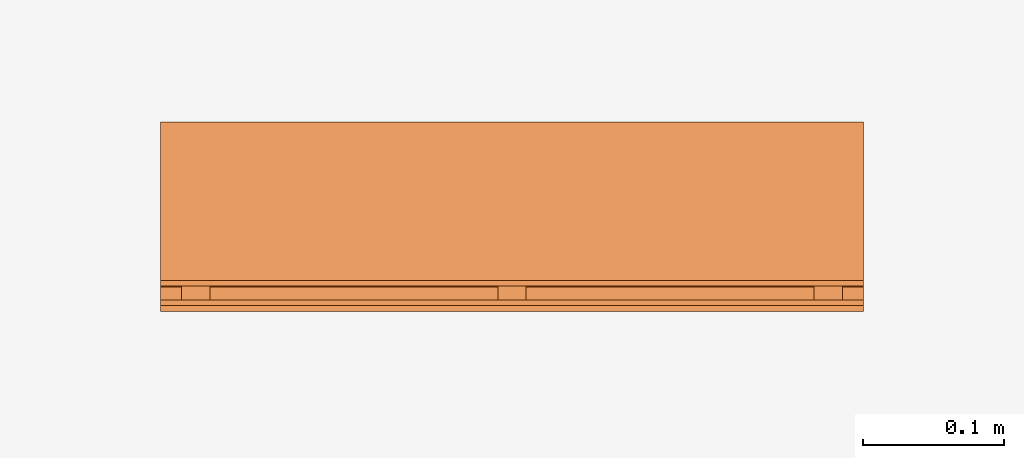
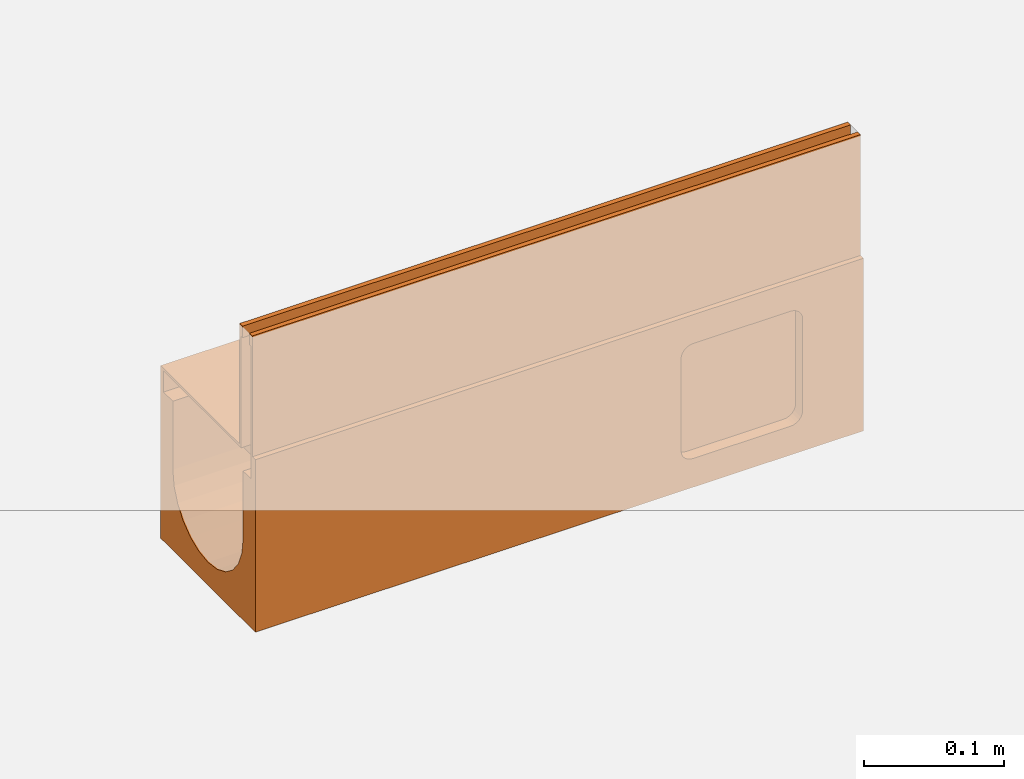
# One storey, part 2 of 2: 1 proxy.
"""IFC2X3 building model written with IfcOpenShell, lengths in millimetres."""

from ifc_helpers import new_model, entity, si_unit, converted_unit, direction, frame, origin, place, context, subcontext, project, spatial, faceted_brep, source, transform, mapped, material, material_list, element, save


model = new_model("IFC2X3")

# Units and contexts
model_context = context("Model", 3, precision=1e-06, world=origin(), true_north=direction((2.0, 6.12303176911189e-17, 1.0)))
context_of_model = context(None, 3, precision=1e-06, world=origin(), true_north=direction((2.0, 6.12303176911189e-17, 1.0)))
body_context = subcontext(model_context, "Body", "Model", "MODEL_VIEW")
ifc_project = project(units=[si_unit("LENGTHUNIT", "METRE", prefix="MILLI"), si_unit("AREAUNIT", "SQUARE_METRE", prefix="MILLI"), si_unit("VOLUMEUNIT", "CUBIC_METRE", prefix="MILLI"), converted_unit("PLANEANGLEUNIT", "DEGREE", entity("IfcRatioMeasure", 0.0174532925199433), si_unit("PLANEANGLEUNIT", "RADIAN"), dimensions=[0, 0, 0, 0, 0, 0, 0]), si_unit("TIMEUNIT", "SECOND")], contexts=[model_context, context_of_model])

# Site, building, storey
site_placement = place(None, origin())
site = spatial("IfcSite", under=ifc_project, at=site_placement, Name="Default", CompositionType="ELEMENT")
building_placement = place(site_placement, origin())
building = spatial("IfcBuilding", under=site, at=building_placement, CompositionType="ELEMENT")
storey_placement = place(building_placement, origin())
storey = spatial("IfcBuildingStorey", under=building, at=storey_placement, Name="Level 1", CompositionType="ELEMENT", Elevation=0.0)

# Proxy
ifc_material_1 = material(Name="Steel, Galvanized")
ifc_material_2 = material(Name="Vienite® Synthetic Resin Concrete")
ifc_material_list = material_list([ifc_material_1, ifc_material_2])
shared_shape = source(origin(), body_context, "Body", "Brep", [
    faceted_brep([(63.249999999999, 15.0, -107.0), (63.249999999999, 17.0, -109.0), (63.249999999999, 33.0, -109.0), (63.249999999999, 35.0, -107.0), (63.249999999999, 17.0, -123.499999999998), (63.249999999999, 15.0, -125.499999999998), (63.249999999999, 33.0, -123.499999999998), (63.249999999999, 35.0, -125.499999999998), (-61.250000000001, 15.0, -125.499999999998), (-61.250000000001, 17.0, -123.499999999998), (-61.250000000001, 33.0, -123.499999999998), (-61.250000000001, 35.0, -125.499999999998), (-61.250000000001, 17.0, -109.0), (-61.250000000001, 15.0, -107.0), (-61.250000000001, 33.0, -109.0), (-61.250000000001, 35.0, -107.0)], [[[0, 1, 2, 3]], [[4, 1, 0, 5]], [[3, 2, 6, 7]], [[6, 4, 5, 7]], [[8, 9, 10, 11]], [[12, 9, 8, 13]], [[11, 10, 14, 15]], [[14, 12, 13, 15]], [[5, 0, 13, 8]], [[7, 5, 8, 11]], [[3, 7, 11, 15]], [[0, 3, 15, 13]], [[1, 4, 9, 12]], [[14, 2, 1, 12]], [[6, 2, 14, 10]], [[9, 4, 6, 10]]]),
    faceted_brep([(-59.2500000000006, 500.0, 0.0), (-59.2500000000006, 500.0, -10.0), (-61.2500000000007, 500.0, -10.0), (-63.2500000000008, 500.0, 0.0), (-63.2500000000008, 500.0, -105.0), (-61.2500000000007, 500.0, -125.499999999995), (-63.2500000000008, 500.0, -125.499999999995), (-61.2500000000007, 0.0, -10.0), (-63.2500000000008, 0.0, 0.0), (-63.2500000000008, 0.0, -125.499999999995), (-61.2500000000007, 0.0, -125.499999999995), (-59.2500000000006, 0.0, 0.0), (-59.2500000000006, 0.0, -10.0)], [[[0, 1, 2, 3]], [[4, 2, 5, 6]], [[3, 2, 4]], [[7, 8, 9, 10]], [[11, 8, 7, 12]], [[5, 10, 9, 6]], [[2, 7, 10, 5]], [[1, 12, 7, 2]], [[0, 11, 12, 1]], [[3, 8, 11, 0]], [[4, 9, 8, 3]], [[4, 6, 9]]]),
    faceted_brep([(-47.2500000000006, 0.0, -10.0), (-47.2500000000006, 0.0, -107.0), (-45.2500000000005, 0.0, -105.0), (-45.2500000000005, 0.0, 0.0), (-49.2500000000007, 0.0, 0.0), (-49.2500000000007, 0.0, -10.0), (63.2499999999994, 0.0, -107.0), (63.2499999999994, 0.0, -105.0), (-47.2500000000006, 500.0, -10.0), (-49.2500000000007, 500.0, -10.0), (-47.2500000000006, 500.0, -107.0), (63.2499999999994, 500.0, -107.0), (63.2499999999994, 500.0, -105.0), (-45.2500000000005, 500.0, -105.0), (-45.2500000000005, 500.0, 0.0), (-49.2500000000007, 500.0, 0.0)], [[[0, 1, 2, 3]], [[4, 5, 0, 3]], [[6, 7, 2, 1]], [[8, 0, 5, 9]], [[10, 1, 0, 8]], [[11, 6, 1, 10]], [[12, 7, 6, 11]], [[13, 2, 7, 12]], [[14, 3, 2, 13]], [[15, 4, 3, 14]], [[9, 5, 4, 15]], [[8, 14, 13, 10]], [[13, 12, 11, 10]], [[8, 9, 15, 14]]]),
    faceted_brep([(63.2499999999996, 465.0, -107.0), (63.2499999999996, 467.0, -109.0), (63.2499999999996, 483.0, -109.0), (63.2499999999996, 485.0, -107.0), (63.2499999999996, 467.0, -123.499999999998), (63.2499999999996, 465.0, -125.499999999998), (63.2499999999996, 483.0, -123.499999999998), (63.2499999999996, 485.0, -125.499999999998), (-61.2500000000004, 465.0, -125.499999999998), (-61.2500000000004, 467.0, -123.499999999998), (-61.2500000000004, 483.0, -123.499999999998), (-61.2500000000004, 485.0, -125.499999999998), (-61.2500000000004, 467.0, -109.0), (-61.2500000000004, 465.0, -107.0), (-61.2500000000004, 483.0, -109.0), (-61.2500000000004, 485.0, -107.0)], [[[0, 1, 2, 3]], [[4, 1, 0, 5]], [[3, 2, 6, 7]], [[6, 4, 5, 7]], [[8, 9, 10, 11]], [[12, 9, 8, 13]], [[11, 10, 14, 15]], [[14, 12, 13, 15]], [[5, 0, 13, 8]], [[7, 5, 8, 11]], [[3, 7, 11, 15]], [[0, 3, 15, 13]], [[1, 4, 9, 12]], [[2, 1, 12, 14]], [[6, 2, 14, 10]], [[4, 6, 10, 9]]]),
    faceted_brep([(63.2499999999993, 240.0, -107.0), (63.2499999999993, 242.0, -109.0), (63.2499999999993, 258.0, -109.0), (63.2499999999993, 260.0, -107.0), (63.2499999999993, 242.0, -123.499999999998), (63.2499999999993, 240.0, -125.499999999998), (63.2499999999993, 258.0, -123.499999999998), (63.2499999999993, 260.0, -125.499999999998), (-61.2500000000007, 240.0, -125.499999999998), (-61.2500000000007, 242.0, -123.499999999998), (-61.2500000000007, 258.0, -123.499999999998), (-61.2500000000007, 260.0, -125.499999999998), (-61.2500000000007, 242.0, -109.0), (-61.2500000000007, 240.0, -107.0), (-61.2500000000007, 258.0, -109.0), (-61.2500000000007, 260.0, -107.0)], [[[0, 1, 2, 3]], [[4, 1, 0, 5]], [[3, 2, 6, 7]], [[6, 4, 5, 7]], [[8, 9, 10, 11]], [[12, 9, 8, 13]], [[11, 10, 14, 15]], [[14, 12, 13, 15]], [[5, 0, 13, 8]], [[7, 5, 8, 11]], [[3, 7, 11, 15]], [[0, 3, 15, 13]], [[1, 4, 9, 12]], [[2, 1, 12, 14]], [[6, 2, 14, 10]], [[4, 6, 10, 9]]]),
    faceted_brep([(63.2499999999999, 500.0, -125.500000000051), (63.2499999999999, 500.0, -105.0), (67.4999999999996, 500.0, -105.0), (67.4999999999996, 500.0, -255.0), (50.0, 500.0, -185.0), (50.0, 500.0, -125.500000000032), (48.2962913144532, 500.0, -197.940952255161), (-67.5000000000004, 500.0, -105.0), (-63.2500000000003, 500.0, -105.0), (-63.2500000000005, 500.0, -125.500000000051), (-67.5000000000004, 500.0, -255.0), (-50.0, 500.0, -125.500000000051), (-50.0, 500.0, -185.0), (35.3553390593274, 500.0, -220.355339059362), (43.3012701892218, 500.0, -210.0), (25.0, 500.0, -228.301270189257), (0.0, 500.0, -235.0), (12.9409522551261, 500.0, -233.296291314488), (-43.3012701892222, 500.0, -210.0), (-35.3553390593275, 500.0, -220.355339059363), (-48.2962913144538, 500.0, -197.940952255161), (-25.0, 500.0, -228.301270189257), (-12.940952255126, 500.0, -233.296291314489), (67.4999999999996, 0.0, -255.0), (12.9409522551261, 0.0, -233.296291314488), (0.0, 0.0, -235.0), (25.0, 0.0, -228.301270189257), (35.3553390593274, 0.0, -220.355339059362), (43.3012701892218, 0.0, -210.0), (48.2962913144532, 0.0, -197.940952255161), (-12.940952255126, 0.0, -233.296291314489), (-67.5000000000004, 0.0, -255.0), (-25.0, 0.0, -228.301270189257), (-35.3553390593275, 0.0, -220.355339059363), (-43.3012701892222, 0.0, -210.0), (-48.2962913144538, 0.0, -197.940952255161), (50.0, 0.0, -185.0), (63.2499999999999, 0.0, -125.500000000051), (50.0, 0.0, -125.500000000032), (67.4999999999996, 0.0, -105.0), (63.2499999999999, 0.0, -105.0), (-50.0, 0.0, -185.0), (-50.0, 0.0, -125.500000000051), (-63.2500000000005, 0.0, -125.500000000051), (-63.2500000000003, 0.0, -105.0), (-67.5000000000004, 0.0, -105.0), (-67.5000000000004, 51.3397459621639, -135.0), (-67.5000000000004, 50.3407417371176, -137.411809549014), (-67.5000000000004, 52.9289321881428, -132.928932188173), (-67.5000000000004, 50.0, -140.0), (-67.5000000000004, 50.0, -220.0), (-67.5000000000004, 60.0, -130.0), (-67.5000000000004, 57.4118095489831, -130.340741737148), (-67.5000000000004, 55.0, -131.339745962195), (-67.5000000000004, 140.0, -130.0), (-67.5000000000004, 50.3407417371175, -222.588190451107), (-67.5000000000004, 51.3397459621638, -225.0), (-67.5000000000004, 52.9289321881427, -227.071067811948), (-67.5000000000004, 55.0, -228.660254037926), (-67.5000000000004, 57.4118095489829, -229.659258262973), (-67.5000000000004, 60.0, -230.0), (-67.5000000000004, 140.0, -230.0), (-67.5000000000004, 142.588190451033, -130.340741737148), (-67.5000000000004, 147.071067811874, -132.928932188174), (-67.5000000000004, 145.0, -131.339745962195), (-67.5000000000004, 148.660254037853, -135.0), (-67.5000000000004, 149.659258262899, -137.411809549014), (-67.5000000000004, 150.0, -140.0), (-67.5000000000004, 145.0, -228.660254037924), (-67.5000000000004, 147.071067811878, -227.071067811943), (-67.5000000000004, 142.588190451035, -229.659258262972), (-67.5000000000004, 149.659258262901, -222.588190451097), (-67.5000000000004, 150.0, -220.0), (-67.5000000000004, 148.660254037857, -225.0), (-14.2350474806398, 46.8740795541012, -255.0), (0.0, 45.0, -255.0), (-27.5000000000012, 52.3686027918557, -255.0), (-53.1259204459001, 85.764952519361, -255.0), (-47.6313972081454, 72.4999999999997, -255.0), (-38.8908729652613, 61.1091270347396, -255.0), (-55.0, 100.0, -255.0), (14.2350474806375, 46.8740795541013, -255.0), (27.4999999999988, 52.368602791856, -255.0), (38.8908729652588, 61.1091270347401, -255.0), (47.6313972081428, 72.5000000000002, -255.0), (53.1259204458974, 85.7649525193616, -255.0), (55.0, 100.0, -255.0), (-53.1259204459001, 114.235047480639, -255.0), (-47.6313972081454, 127.5, -255.0), (-38.8908729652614, 138.89087296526, -255.0), (-27.5000000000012, 147.631397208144, -255.0), (-14.2350474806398, 153.125920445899, -255.0), (0.0, 155.0, -255.0), (47.6313972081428, 127.5, -255.0), (38.8908729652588, 138.89087296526, -255.0), (53.1259204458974, 114.235047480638, -255.0), (14.2350474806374, 153.125920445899, -255.0), (27.4999999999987, 147.631397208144, -255.0), (67.4999999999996, 51.3397459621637, -225.0), (67.4999999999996, 50.3407417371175, -222.588190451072), (67.4999999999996, 52.9289321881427, -227.071067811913), (67.4999999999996, 50.0, -220.0), (67.4999999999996, 50.0, -140.0), (67.4999999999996, 60.0, -230.0), (67.4999999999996, 57.4118095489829, -229.659258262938), (67.4999999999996, 55.0, -228.660254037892), (67.4999999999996, 140.0, -230.0), (67.4999999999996, 50.3407417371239, -137.411809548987), (67.4999999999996, 51.3397459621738, -135.0), (67.4999999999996, 52.9289321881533, -132.92893218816), (67.4999999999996, 55.0, -131.339745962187), (67.4999999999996, 57.4118095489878, -130.340741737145), (67.4999999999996, 60.0, -130.0), (67.4999999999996, 140.0, -130.0), (67.4999999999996, 142.588190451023, -229.659258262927), (67.4999999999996, 147.071067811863, -227.071067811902), (67.4999999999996, 145.0, -228.660254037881), (67.4999999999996, 148.660254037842, -225.0), (67.4999999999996, 149.659258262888, -222.588190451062), (67.4999999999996, 150.0, -220.0), (67.4999999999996, 145.0, -131.339745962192), (67.4999999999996, 147.071067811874, -132.928932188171), (67.4999999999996, 142.588190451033, -130.340741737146), (67.4999999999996, 149.659258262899, -137.411809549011), (67.4999999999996, 150.0, -140.0), (67.4999999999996, 148.660254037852, -135.0), (57.4999999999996, 149.659258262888, -222.588190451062), (57.4999999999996, 150.0, -220.0), (57.4999999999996, 140.0, -230.0), (57.4999999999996, 148.660254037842, -225.0), (57.4999999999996, 142.588190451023, -229.659258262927), (57.4999999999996, 145.0, -228.660254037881), (57.4999999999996, 147.071067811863, -227.071067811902), (57.4999999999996, 150.0, -140.0), (57.4999999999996, 149.659258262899, -137.411809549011), (57.4999999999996, 148.660254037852, -135.0), (57.4999999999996, 147.071067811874, -132.928932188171), (57.4999999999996, 145.0, -131.339745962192), (57.4999999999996, 140.0, -130.0), (57.4999999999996, 142.588190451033, -130.340741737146), (57.4999999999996, 60.0, -130.0), (57.4999999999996, 50.0, -220.0), (57.4999999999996, 55.0, -228.660254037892), (57.4999999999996, 57.4118095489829, -229.659258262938), (57.4999999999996, 60.0, -230.0), (57.4999999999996, 52.9289321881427, -227.071067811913), (57.4999999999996, 50.3407417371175, -222.588190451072), (57.4999999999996, 51.3397459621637, -225.0), (57.4999999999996, 57.411809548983, -130.340741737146), (57.4999999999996, 55.0, -131.339745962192), (57.4999999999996, 50.3407417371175, -137.411809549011), (57.4999999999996, 52.9289321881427, -132.928932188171), (57.4999999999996, 51.3397459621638, -135.0), (57.4999999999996, 50.0, -140.0), (-57.5000000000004, 55.0, -131.339745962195), (-57.5000000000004, 57.4118095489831, -130.340741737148), (-57.5000000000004, 60.0, -130.0), (-57.5000000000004, 50.0, -140.0), (-57.5000000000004, 50.3407417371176, -137.411809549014), (-57.5000000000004, 51.3397459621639, -135.0), (-57.5000000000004, 52.9289321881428, -132.928932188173), (-57.5000000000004, 150.0, -140.0), (-57.5000000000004, 140.0, -130.0), (-57.5000000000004, 148.660254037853, -135.0), (-57.5000000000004, 142.588190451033, -130.340741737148), (-57.5000000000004, 145.0, -131.339745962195), (-57.5000000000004, 147.071067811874, -132.928932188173), (-57.5000000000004, 149.659258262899, -137.411809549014), (-57.5000000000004, 150.0, -220.0), (-57.5000000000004, 50.0, -220.0), (-57.5000000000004, 51.3397459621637, -225.0), (-57.5000000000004, 50.3407417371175, -222.588190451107), (-57.5000000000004, 60.0, -230.0), (-57.5000000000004, 57.4118095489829, -229.659258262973), (-57.5000000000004, 55.0, -228.660254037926), (-57.5000000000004, 52.9289321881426, -227.071067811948), (-57.5000000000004, 140.0, -230.0), (-57.5000000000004, 149.659258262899, -222.588190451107), (-57.5000000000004, 148.660254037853, -225.0), (-57.5000000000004, 142.588190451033, -229.659258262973), (-57.5000000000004, 147.071067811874, -227.071067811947), (-57.5000000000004, 145.0, -228.660254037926), (-27.5000000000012, 147.631397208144, -245.0), (-14.2350474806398, 153.125920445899, -245.0), (0.0, 155.0, -245.0), (14.2350474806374, 153.125920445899, -245.0), (-38.8908729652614, 138.89087296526, -245.0), (-47.6313972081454, 127.5, -245.0), (-55.0, 100.0, -245.0), (-53.1259204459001, 114.235047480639, -245.0), (47.6313972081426, 72.4999999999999, -245.0), (27.4999999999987, 147.631397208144, -245.0), (53.1259204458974, 114.235047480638, -245.0), (55.0, 100.0, -245.0), (47.6313972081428, 127.5, -245.0), (38.8908729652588, 138.89087296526, -245.0), (-47.6313972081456, 72.5, -245.0), (-27.5000000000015, 52.3686027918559, -245.0), (-38.8908729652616, 61.1091270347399, -245.0), (0.0, 45.0, -245.0), (-14.2350474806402, 46.8740795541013, -245.0), (38.8908729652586, 61.1091270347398, -245.0), (53.1259204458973, 85.7649525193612, -245.0), (27.4999999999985, 52.3686027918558, -245.0), (14.2350474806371, 46.8740795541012, -245.0), (-53.1259204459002, 85.7649525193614, -245.0)], [[[0, 1, 2, 3]], [[4, 5, 0, 3]], [[6, 4, 3]], [[7, 8, 9, 10]], [[9, 11, 12, 10]], [[13, 14, 3]], [[15, 13, 3]], [[16, 17, 3, 10]], [[3, 17, 15]], [[14, 6, 3]], [[18, 19, 10]], [[20, 18, 10]], [[21, 22, 10]], [[10, 22, 16]], [[21, 10, 19]], [[20, 10, 12]], [[23, 24, 25]], [[24, 23, 26]], [[27, 26, 23]], [[28, 27, 23]], [[23, 29, 28]], [[25, 30, 31, 23]], [[31, 30, 32]], [[33, 34, 31]], [[32, 33, 31]], [[31, 34, 35]], [[36, 29, 23, 37]], [[38, 36, 37]], [[39, 40, 37, 23]], [[41, 42, 43, 31]], [[43, 44, 45, 31]], [[31, 35, 41]], [[8, 44, 43, 9]], [[45, 44, 8, 7]], [[45, 46, 47]], [[46, 45, 48]], [[47, 49, 45]], [[45, 49, 50]], [[51, 52, 45]], [[53, 48, 45]], [[52, 53, 45]], [[54, 51, 45, 7]], [[50, 55, 31, 45]], [[31, 56, 57]], [[56, 31, 55]], [[57, 58, 31]], [[59, 60, 31]], [[58, 59, 31]], [[31, 60, 61]], [[62, 54, 7]], [[63, 64, 7]], [[62, 7, 64]], [[65, 7, 66]], [[7, 65, 63]], [[67, 66, 7, 10]], [[68, 69, 10]], [[61, 70, 10, 31]], [[68, 10, 70]], [[71, 72, 10]], [[73, 10, 69]], [[10, 73, 71]], [[72, 67, 10]], [[31, 74, 75, 23]], [[74, 31, 76]], [[77, 78, 31]], [[79, 76, 31]], [[78, 79, 31]], [[31, 80, 77]], [[23, 81, 82]], [[81, 23, 75]], [[23, 82, 83]], [[83, 84, 23]], [[85, 86, 23]], [[84, 85, 23]], [[23, 86, 3]], [[10, 87, 80, 31]], [[88, 87, 10]], [[89, 10, 90]], [[10, 89, 88]], [[91, 90, 10]], [[92, 91, 10, 3]], [[93, 94, 3]], [[95, 93, 3]], [[96, 92, 3]], [[97, 3, 94]], [[3, 97, 96]], [[95, 3, 86]], [[23, 98, 99]], [[98, 23, 100]], [[99, 101, 23]], [[23, 101, 102]], [[103, 104, 23]], [[105, 100, 23]], [[104, 105, 23]], [[106, 103, 23, 3]], [[102, 107, 39, 23]], [[39, 108, 109]], [[108, 39, 107]], [[109, 110, 39]], [[111, 112, 39]], [[110, 111, 39]], [[39, 112, 113]], [[114, 106, 3]], [[115, 116, 3]], [[114, 3, 116]], [[117, 3, 118]], [[3, 117, 115]], [[119, 118, 3, 2]], [[120, 121, 2]], [[113, 122, 2, 39]], [[120, 2, 122]], [[123, 124, 2]], [[125, 2, 121]], [[2, 125, 123]], [[124, 119, 2]], [[40, 39, 2, 1]], [[0, 37, 40, 1]], [[5, 38, 37, 0]], [[4, 36, 38, 5]], [[6, 29, 36, 4]], [[14, 28, 29, 6]], [[15, 26, 27, 13]], [[13, 27, 28, 14]], [[17, 24, 26, 15]], [[24, 17, 16, 25]], [[21, 32, 30, 22]], [[19, 33, 32, 21]], [[20, 35, 34, 18]], [[18, 34, 33, 19]], [[12, 41, 35, 20]], [[22, 30, 25, 16]], [[11, 42, 41, 12]], [[43, 42, 11, 9]], [[126, 127, 128, 129]], [[128, 130, 131, 129]], [[131, 132, 129]], [[133, 128, 127]], [[134, 135, 136, 137]], [[133, 134, 138, 128]], [[137, 139, 138, 134]], [[128, 138, 140, 141]], [[142, 143, 144, 145]], [[146, 147, 145, 144]], [[141, 146, 144, 128]], [[140, 148, 149, 150]], [[150, 149, 151, 152]], [[140, 150, 153, 141]], [[150, 107, 102, 153]], [[152, 108, 107, 150]], [[108, 152, 151, 109]], [[149, 110, 109, 151]], [[148, 111, 110, 149]], [[111, 148, 140, 112]], [[112, 140, 138, 113]], [[139, 122, 113, 138]], [[137, 120, 122, 139]], [[120, 137, 136, 121]], [[135, 125, 121, 136]], [[134, 123, 125, 135]], [[123, 134, 133, 124]], [[124, 133, 127, 119]], [[126, 118, 119, 127]], [[129, 117, 118, 126]], [[117, 129, 132, 115]], [[131, 116, 115, 132]], [[130, 114, 116, 131]], [[114, 130, 128, 106]], [[106, 128, 144, 103]], [[143, 104, 103, 144]], [[142, 105, 104, 143]], [[105, 142, 145, 100]], [[147, 98, 100, 145]], [[146, 99, 98, 147]], [[99, 146, 141, 101]], [[141, 153, 102, 101]], [[154, 155, 156, 157]], [[158, 154, 157]], [[158, 159, 160, 154]], [[161, 157, 156, 162]], [[163, 164, 165, 166]], [[167, 162, 164, 163]], [[167, 161, 162]], [[157, 161, 168, 169]], [[170, 171, 169, 172]], [[173, 174, 175, 172]], [[170, 172, 175]], [[176, 172, 169, 168]], [[168, 177, 178, 179]], [[179, 178, 180, 181]], [[176, 168, 179]], [[155, 52, 51, 156]], [[154, 53, 52, 155]], [[53, 154, 160, 48]], [[159, 46, 48, 160]], [[158, 47, 46, 159]], [[47, 158, 157, 49]], [[162, 156, 51, 54]], [[167, 66, 67, 161]], [[163, 65, 66, 167]], [[65, 163, 166, 63]], [[165, 64, 63, 166]], [[164, 62, 64, 165]], [[62, 164, 162, 54]], [[72, 168, 161, 67]], [[179, 70, 61, 176]], [[181, 68, 70, 179]], [[68, 181, 180, 69]], [[178, 73, 69, 180]], [[177, 71, 73, 178]], [[71, 177, 168, 72]], [[60, 172, 176, 61]], [[171, 55, 50, 169]], [[170, 56, 55, 171]], [[56, 170, 175, 57]], [[174, 58, 57, 175]], [[173, 59, 58, 174]], [[59, 173, 172, 60]], [[157, 169, 50, 49]], [[182, 183, 184, 185]], [[186, 182, 185, 187]], [[188, 189, 187, 190]], [[190, 187, 185, 191]], [[192, 193, 191, 194]], [[195, 194, 191]], [[196, 188, 190, 197]], [[198, 196, 197]], [[199, 200, 197, 201]], [[193, 202, 190, 191]], [[199, 201, 203, 204]], [[197, 190, 201]], [[205, 188, 196]], [[192, 95, 86, 193]], [[194, 93, 95, 192]], [[191, 97, 94, 195]], [[195, 94, 93, 194]], [[185, 96, 97, 191]], [[96, 185, 184, 92]], [[183, 91, 92, 184]], [[182, 90, 91, 183]], [[187, 88, 89, 186]], [[186, 89, 90, 182]], [[189, 87, 88, 187]], [[87, 189, 188, 80]], [[205, 77, 80, 188]], [[196, 78, 77, 205]], [[197, 76, 79, 198]], [[198, 79, 78, 196]], [[200, 74, 76, 197]], [[74, 200, 199, 75]], [[204, 81, 75, 199]], [[203, 82, 81, 204]], [[190, 84, 83, 201]], [[201, 83, 82, 203]], [[202, 85, 84, 190]], [[85, 202, 193, 86]]]),
])
proxy_placement = place(storey_placement, frame((143.656586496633, 99.9218925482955, 0.0), z_axis=(0.0, 0.0, 1.0), x_axis=(0.0, 1.0, 0.0)))
element("IfcBuildingElementProxy", 1, at=proxy_placement, inside=storey, material=ifc_material_list, Name="Civil-Drainage-Channel-ACO-MultiDrain-M100D-Brickslot-Channel-System:23050 - No 0.1J Constant Depth Channel - 500mm LG - Invert Depth 130mm:23050 - No 0.1J Constant Depth Channel - 500mm LG - Invert Depth 130mm", ObjectType="23050 - No 0.1J Constant Depth Channel - 500mm LG - Invert Depth 130mm", CompositionType="ELEMENT", context=body_context, shape_type="MappedRepresentation", body=[
    mapped(shared_shape, transform((0.0, 0.0, 0.0), scale=1.0)),
])

save(model, "model.ifc")
